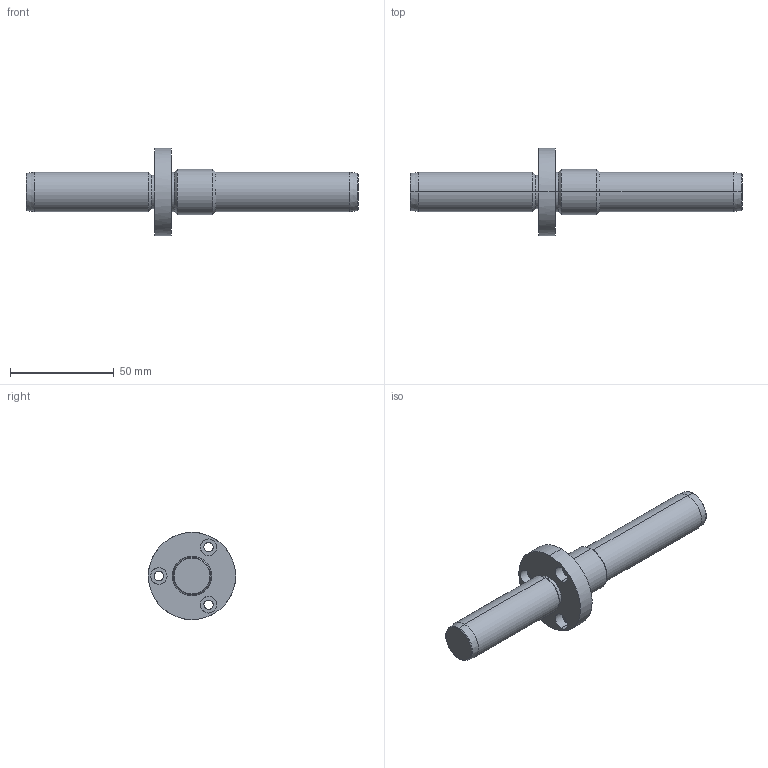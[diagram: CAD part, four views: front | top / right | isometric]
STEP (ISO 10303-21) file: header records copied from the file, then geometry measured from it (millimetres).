
FILE_DESCRIPTION(('CATIA V5 STEP Exchange'),'2;1');
FILE_NAME('C:\Users\Utente\Desktop\IO LAVORO\3D X SITO CF\X SITO\721\721-19x160.stp','2021-01-01T17:35:51+00:00',('none'),('none'),'CATIA Version 5 Release 20 GA (IN-10)','CATIA V5 STEP AP203','none');
FILE_SCHEMA(('CONFIG_CONTROL_DESIGN'));
Length unit declared in the file: millimetre
Products named in the file (1): 721-19x160
Bounding box: 160 x 42 x 42 mm (x, y, z)
Volume: 54786 mm3; surface area: 13556.2 mm2
Topology: 1 solids, 1 shells, 45 faces, 150 edges, 112 vertices
Faces by surface type: cylinder 24, cone 10, plane 7, torus 4
Entity records: 2060 total; most frequent: CARTESIAN_POINT 730, ORIENTED_EDGE 300, DIRECTION 206, EDGE_CURVE 150, AXIS2_PLACEMENT_3D 128, VERTEX_POINT 112, CIRCLE 82, EDGE_LOOP 56
